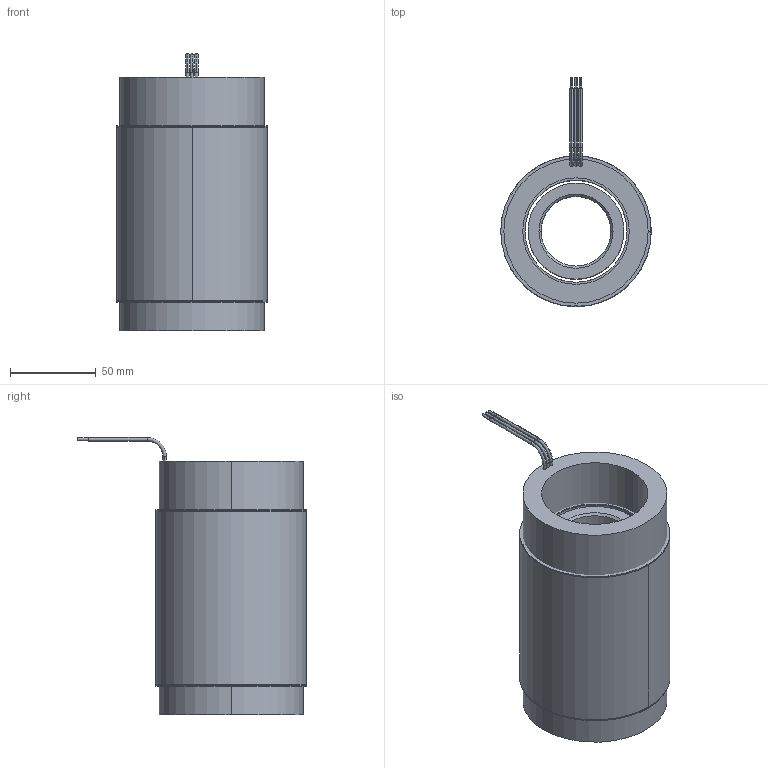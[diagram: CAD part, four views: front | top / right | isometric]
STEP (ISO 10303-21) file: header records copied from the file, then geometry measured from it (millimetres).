
FILE_DESCRIPTION (( 'STEP AP214' ), '1' );
FILE_NAME ('6100253-05.STEP', '2019-11-11T17:21:22', ( '' ), ( '' ), 'SwSTEP 2.0', 'SolidWorks 2016', '' );
FILE_SCHEMA (( 'AUTOMOTIVE_DESIGN' ));
Length unit declared in the file: millimetre
Products named in the file (11): 4450152-XX_4450152-03; 4400055-00; 4150142-XX_4150142-03; 4600517-00; 6100253-05; 4500514-XX_4500514-05; 4250338-XX_4250338-03; COMP4500514-XX(COIL)_COMP4500514-03(COIL)
Assembly tree (10 placements, depth 4):
  6100253-05
    4500514-XX_4500514-05
      4450152-XX_4450152-03
        4450152-XX_4450152-03
        4400055-00
        4400055-00
        4600517-00
        4600517-00
      COMP4500514-XX(COIL)_COMP4500514-03(COIL)
    4250338-XX_4250338-03
      4150142-XX_4150142-03
Bounding box: 87.63 x 133.34 x 161.29 mm (x, y, z)
Volume: 823507.8 mm3; surface area: 186688.7 mm2
Topology: 7 solids, 7 shells, 91 faces, 203 edges, 132 vertices
Faces by surface type: cylinder 61, plane 20, torus 6, cone 4
Entity records: 3031 total; most frequent: DIRECTION 555, CARTESIAN_POINT 442, ORIENTED_EDGE 406, AXIS2_PLACEMENT_3D 245, EDGE_CURVE 203, CIRCLE 138, VERTEX_POINT 132, EDGE_LOOP 111
